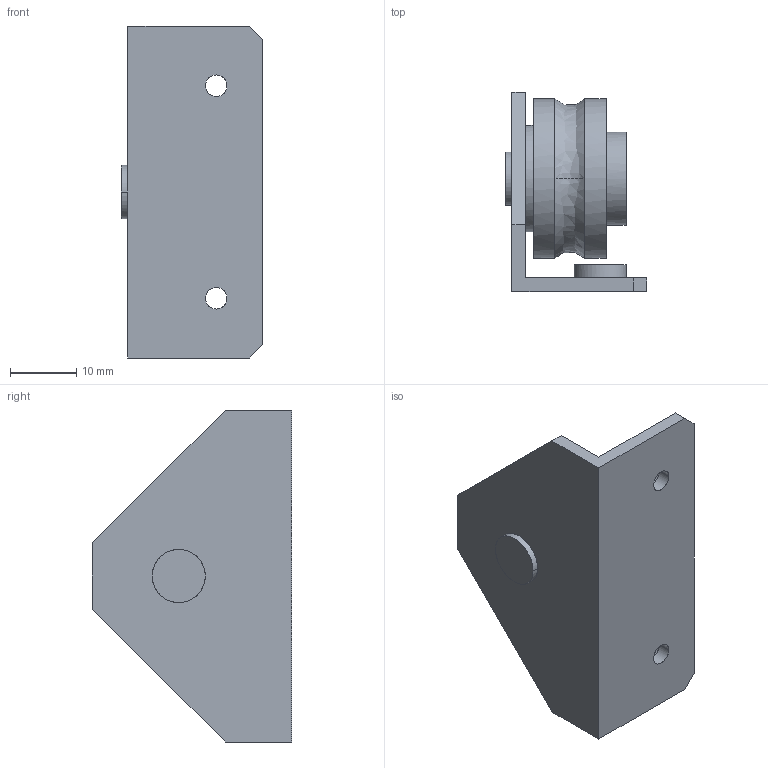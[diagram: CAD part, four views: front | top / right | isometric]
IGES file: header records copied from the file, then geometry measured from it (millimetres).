
Global section: file name: No Iges File Name specified; native system: AutoDesk Inventor R11.0; preprocessor: AutoDesk Inventor Iges Exporter R11.0; author: No Author specified; organization: No Organization specified; date: 20190426.192357; units: millimetre
Bounding box: 21.3 x 30 x 50 mm (x, y, z)
Surface area: 6648.3 mm2 (no closed solid volume)
Topology: 0 solids, 0 shells, 47 faces, 308 edges, 308 vertices
Faces by surface type: bspline 47
